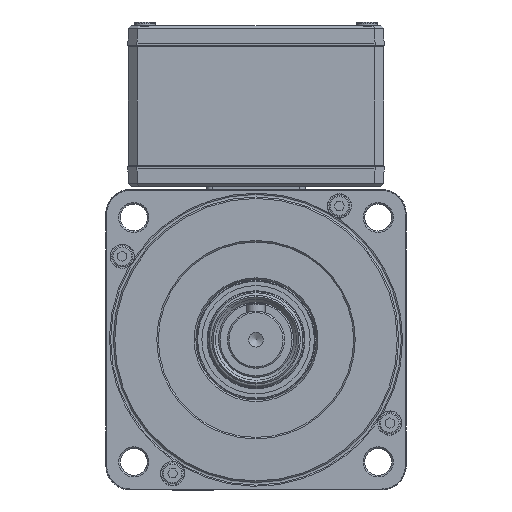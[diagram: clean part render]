
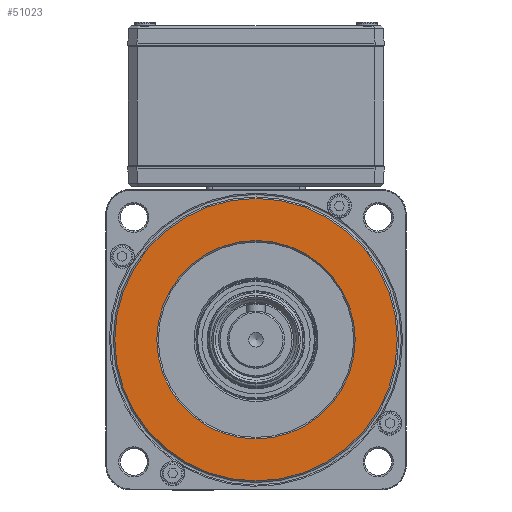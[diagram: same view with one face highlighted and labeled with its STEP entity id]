
A CAD part, left-side view. The second image highlights one B-rep face of the part: STEP entity #51023.
In plain terms, the highlighted planar face has unit normal (-1, 0, 0) as drawn and (0, -1, 0) by its records, which use the part's own axes.
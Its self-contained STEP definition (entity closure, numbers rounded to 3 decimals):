
#30071=ORIENTED_EDGE('',*,*,#35899,.T.);
#30072=ORIENTED_EDGE('',*,*,#35900,.T.);
#35899=EDGE_CURVE('',#39725,#39725,#41366,.F.);
#35900=EDGE_CURVE('',#39726,#39726,#41367,.T.);
#39725=VERTEX_POINT('',#82675);
#39726=VERTEX_POINT('',#82677);
#41366=CIRCLE('',#54964,33.);
#41367=CIRCLE('',#54965,47.);
#44275=EDGE_LOOP('',(#30071));
#44276=EDGE_LOOP('',(#30072));
#47317=FACE_BOUND('',#44275,.T.);
#47318=FACE_BOUND('',#44276,.T.);
#48780=PLANE('',#54963);
#51023=ADVANCED_FACE('',(#47317,#47318),#48780,.T.);
#54963=AXIS2_PLACEMENT_3D('',#82673,#65691,#65692);
#54964=AXIS2_PLACEMENT_3D('',#82674,#65693,#65694);
#54965=AXIS2_PLACEMENT_3D('',#82676,#65695,#65696);
#65691=DIRECTION('',(0.,-1.,0.));
#65692=DIRECTION('',(0.,0.,-1.));
#65693=DIRECTION('',(0.,-1.,0.));
#65694=DIRECTION('',(0.,0.,-1.));
#65695=DIRECTION('',(0.,-1.,0.));
#65696=DIRECTION('',(0.,0.,-1.));
#82673=CARTESIAN_POINT('',(0.,-2.5,47.5));
#82674=CARTESIAN_POINT('',(0.,-2.5,0.));
#82675=CARTESIAN_POINT('',(0.,-2.5,-33.));
#82676=CARTESIAN_POINT('',(0.,-2.5,0.));
#82677=CARTESIAN_POINT('',(0.,-2.5,-47.));
